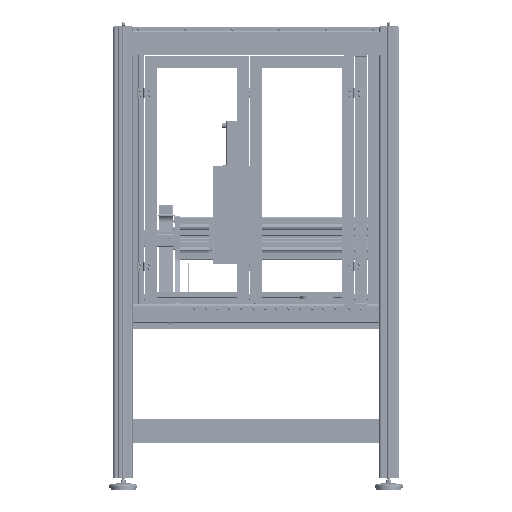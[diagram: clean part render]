
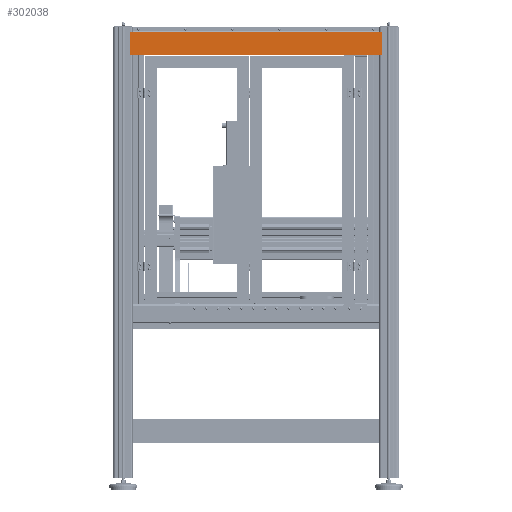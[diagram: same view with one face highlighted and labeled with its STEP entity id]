
A CAD part, top view. The second image highlights one B-rep face of the part: STEP entity #302038.
In plain terms, the highlighted planar face has unit normal (0, 0, 1).
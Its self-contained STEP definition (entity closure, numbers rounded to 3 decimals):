
#11962 = CARTESIAN_POINT ( 'NONE',  ( 524., 1165.9, 475.499 ) ) ;
#18960 = EDGE_CURVE ( 'NONE', #263434, #327722, #556475, .T. ) ;
#34464 = DIRECTION ( 'NONE',  ( 1., 0., 0. ) ) ;
#37686 = CARTESIAN_POINT ( 'NONE',  ( -524., 1069.6, 475.499 ) ) ;
#72675 = CARTESIAN_POINT ( 'NONE',  ( 534., 1165.9, 475.499 ) ) ;
#75725 = CARTESIAN_POINT ( 'NONE',  ( 524., 1165.9, 475.499 ) ) ;
#84397 = DIRECTION ( 'NONE',  ( -1., 0., 0. ) ) ;
#91176 = CARTESIAN_POINT ( 'NONE',  ( 524., 1069.6, 475.499 ) ) ;
#102889 = VERTEX_POINT ( 'NONE', #474192 ) ;
#102990 = ORIENTED_EDGE ( 'NONE', *, *, #543536, .T. ) ;
#117293 = VECTOR ( 'NONE', #547155, 1000. ) ;
#117951 = LINE ( 'NONE', #75725, #117293 ) ;
#125034 = CARTESIAN_POINT ( 'NONE',  ( -524., 1069.6, 475.499 ) ) ;
#125862 = VERTEX_POINT ( 'NONE', #185232 ) ;
#131102 = ORIENTED_EDGE ( 'NONE', *, *, #647053, .T. ) ;
#185232 = CARTESIAN_POINT ( 'NONE',  ( 524., 1069.6, 475.499 ) ) ;
#186410 = VECTOR ( 'NONE', #562644, 1000. ) ;
#187062 = LINE ( 'NONE', #91176, #186410 ) ;
#191953 = LINE ( 'NONE', #610852, #193256 ) ;
#193256 = VECTOR ( 'NONE', #297317, 1000. ) ;
#193334 = EDGE_CURVE ( 'NONE', #125862, #347581, #187062, .T. ) ;
#198795 = EDGE_CURVE ( 'NONE', #102889, #263434, #290984, .T. ) ;
#220255 = PLANE ( 'NONE',  #332582 ) ;
#223994 = ORIENTED_EDGE ( 'NONE', *, *, #639633, .F. ) ;
#228231 = EDGE_LOOP ( 'NONE', ( #663149, #675781, #102990, #131102, #223994, #260608, #362498, #380887 ) ) ;
#233237 = CARTESIAN_POINT ( 'NONE',  ( 534., 1069.6, 475.499 ) ) ;
#236406 = VECTOR ( 'NONE', #282877, 1000. ) ;
#237700 = LINE ( 'NONE', #125034, #236406 ) ;
#260608 = ORIENTED_EDGE ( 'NONE', *, *, #198795, .T. ) ;
#263434 = VERTEX_POINT ( 'NONE', #374299 ) ;
#272825 = DIRECTION ( 'NONE',  ( 1., 0., 0. ) ) ;
#279609 = VERTEX_POINT ( 'NONE', #72675 ) ;
#282877 = DIRECTION ( 'NONE',  ( 1., 0., 0. ) ) ;
#290984 = LINE ( 'NONE', #450688, #292281 ) ;
#292281 = VECTOR ( 'NONE', #84397, 1000. ) ;
#297317 = DIRECTION ( 'NONE',  ( 1., 0., 0. ) ) ;
#302038 = ADVANCED_FACE ( 'NONE', ( #348826 ), #220255, .F. ) ;
#322535 = DIRECTION ( 'NONE',  ( 0., -1., 0. ) ) ;
#327722 = VERTEX_POINT ( 'NONE', #521609 ) ;
#332582 = AXIS2_PLACEMENT_3D ( 'NONE', #375886, #586456, #272825 ) ;
#345623 = CARTESIAN_POINT ( 'NONE',  ( -524., 1069.6, 475.499 ) ) ;
#347581 = VERTEX_POINT ( 'NONE', #558782 ) ;
#348826 = FACE_OUTER_BOUND ( 'NONE', #228231, .T. ) ;
#362498 = ORIENTED_EDGE ( 'NONE', *, *, #18960, .T. ) ;
#374299 = CARTESIAN_POINT ( 'NONE',  ( -534., 1165.9, 475.499 ) ) ;
#375886 = CARTESIAN_POINT ( 'NONE',  ( 524., 1066.5, 475.499 ) ) ;
#380887 = ORIENTED_EDGE ( 'NONE', *, *, #592045, .T. ) ;
#391171 = DIRECTION ( 'NONE',  ( 0., 1., 0. ) ) ;
#398580 = VECTOR ( 'NONE', #34464, 1000. ) ;
#399467 = LINE ( 'NONE', #345623, #398580 ) ;
#427922 = CARTESIAN_POINT ( 'NONE',  ( -534., 1069.6, 475.499 ) ) ;
#448155 = VECTOR ( 'NONE', #391171, 1000. ) ;
#450688 = CARTESIAN_POINT ( 'NONE',  ( -524., 1165.9, 475.499 ) ) ;
#451266 = LINE ( 'NONE', #233237, #448155 ) ;
#474192 = CARTESIAN_POINT ( 'NONE',  ( -524., 1165.9, 475.499 ) ) ;
#521609 = CARTESIAN_POINT ( 'NONE',  ( -534., 1069.6, 475.499 ) ) ;
#543536 = EDGE_CURVE ( 'NONE', #347581, #279609, #451266, .T. ) ;
#547155 = DIRECTION ( 'NONE',  ( -1., 0., 0. ) ) ;
#556475 = LINE ( 'NONE', #427922, #557779 ) ;
#557779 = VECTOR ( 'NONE', #322535, 1000. ) ;
#558782 = CARTESIAN_POINT ( 'NONE',  ( 534., 1069.6, 475.499 ) ) ;
#562644 = DIRECTION ( 'NONE',  ( 1., 0., 0. ) ) ;
#586456 = DIRECTION ( 'NONE',  ( 0., 0., -1. ) ) ;
#592045 = EDGE_CURVE ( 'NONE', #327722, #644687, #237700, .T. ) ;
#610852 = CARTESIAN_POINT ( 'NONE',  ( 524., 1165.9, 475.499 ) ) ;
#611207 = EDGE_CURVE ( 'NONE', #644687, #125862, #399467, .T. ) ;
#639633 = EDGE_CURVE ( 'NONE', #102889, #643382, #191953, .T. ) ;
#643382 = VERTEX_POINT ( 'NONE', #11962 ) ;
#644687 = VERTEX_POINT ( 'NONE', #37686 ) ;
#647053 = EDGE_CURVE ( 'NONE', #279609, #643382, #117951, .T. ) ;
#663149 = ORIENTED_EDGE ( 'NONE', *, *, #611207, .T. ) ;
#675781 = ORIENTED_EDGE ( 'NONE', *, *, #193334, .T. ) ;
